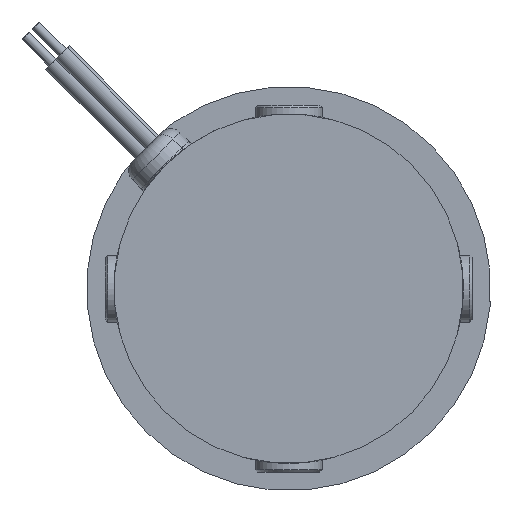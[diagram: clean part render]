
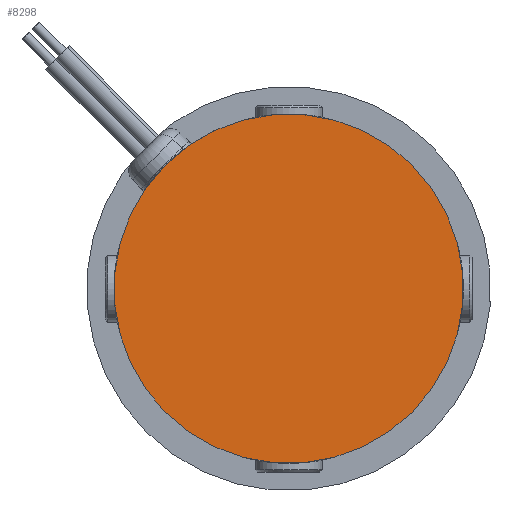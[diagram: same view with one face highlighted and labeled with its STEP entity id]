
A CAD part, left-side view. The second image highlights one B-rep face of the part: STEP entity #8298.
In plain terms, the highlighted planar face has unit normal (-1, 0, 0).
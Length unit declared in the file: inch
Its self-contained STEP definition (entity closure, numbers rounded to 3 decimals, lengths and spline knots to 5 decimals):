
#187 = ORIENTED_EDGE ( 'NONE', *, *, #8322, .F. ) ;
#595 = CARTESIAN_POINT ( 'NONE',  ( -2.13486, 3.00682, 6.0551 ) ) ;
#720 = CIRCLE ( 'NONE', #4858, 1.37795 ) ;
#1818 = EDGE_LOOP ( 'NONE', ( #4556, #187 ) ) ;
#2104 = DIRECTION ( 'NONE',  ( 0., -0.707, 0.707 ) ) ;
#2160 = AXIS2_PLACEMENT_3D ( 'NONE', #3031, #9104, #6250 ) ;
#2831 = DIRECTION ( 'NONE',  ( 1., 0., 0. ) ) ;
#2892 = DIRECTION ( 'NONE',  ( 0., -0.707, 0.707 ) ) ;
#2991 = CARTESIAN_POINT ( 'NONE',  ( -2.13486, 3.98118, 5.08074 ) ) ;
#3031 = CARTESIAN_POINT ( 'NONE',  ( -2.13486, 3.00682, 6.0551 ) ) ;
#3541 = CARTESIAN_POINT ( 'NONE',  ( -2.13486, 2.03246, 7.02946 ) ) ;
#3604 = CIRCLE ( 'NONE', #2160, 1.37795 ) ;
#4500 = CARTESIAN_POINT ( 'NONE',  ( -2.13486, 3.00682, 6.0551 ) ) ;
#4556 = ORIENTED_EDGE ( 'NONE', *, *, #7907, .F. ) ;
#4858 = AXIS2_PLACEMENT_3D ( 'NONE', #595, #2831, #2104 ) ;
#5247 = DIRECTION ( 'NONE',  ( 1., 0., 0. ) ) ;
#5307 = AXIS2_PLACEMENT_3D ( 'NONE', #4500, #5247, #2892 ) ;
#5343 = PLANE ( 'NONE',  #5307 ) ;
#5861 = VERTEX_POINT ( 'NONE', #3541 ) ;
#6250 = DIRECTION ( 'NONE',  ( 0., -0.707, 0.707 ) ) ;
#7309 = FACE_OUTER_BOUND ( 'NONE', #1818, .T. ) ;
#7907 = EDGE_CURVE ( 'NONE', #8331, #5861, #720, .T. ) ;
#8298 = ADVANCED_FACE ( 'NONE', ( #7309 ), #5343, .F. ) ;
#8322 = EDGE_CURVE ( 'NONE', #5861, #8331, #3604, .T. ) ;
#8331 = VERTEX_POINT ( 'NONE', #2991 ) ;
#9104 = DIRECTION ( 'NONE',  ( 1., 0., 0. ) ) ;
